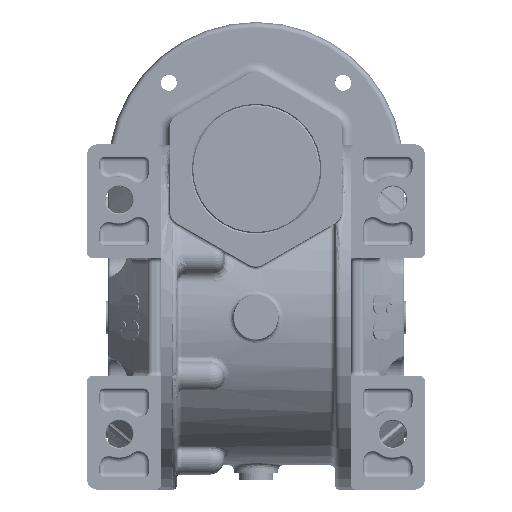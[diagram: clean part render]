
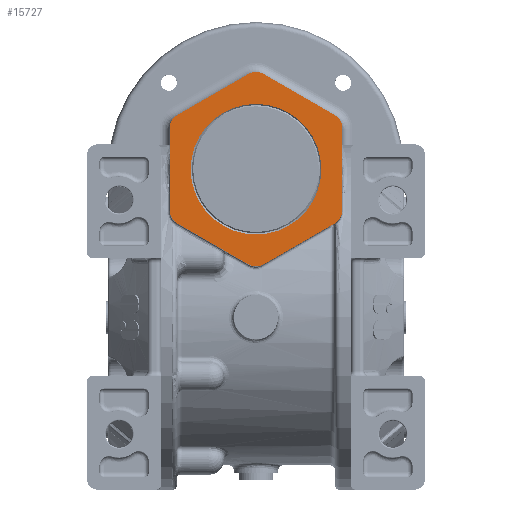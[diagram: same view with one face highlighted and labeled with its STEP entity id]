
A CAD part, top view. The second image highlights one B-rep face of the part: STEP entity #15727.
In plain terms, the highlighted planar face has unit normal (0, 0, 1).
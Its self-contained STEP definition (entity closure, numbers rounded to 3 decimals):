
#9452 = VERTEX_POINT ( 'NONE', #115192 ) ;
#9458 = EDGE_CURVE ( 'NONE', #9460, #9452, #115186, .T. ) ;
#9460 = VERTEX_POINT ( 'NONE', #115175 ) ;
#15530 = VERTEX_POINT ( 'NONE', #147919 ) ;
#15662 = EDGE_CURVE ( 'NONE', #15664, #15530, #148253, .T. ) ;
#15664 = VERTEX_POINT ( 'NONE', #148247 ) ;
#15727 = ADVANCED_FACE ( 'NONE', ( #148387, #148385 ), #148536, .T. ) ;
#15731 = EDGE_LOOP ( 'NONE', ( #15869, #15872 ) ) ;
#15812 = VERTEX_POINT ( 'NONE', #148554 ) ;
#15815 = ORIENTED_EDGE ( 'NONE', *, *, #15817, .T. ) ;
#15817 = EDGE_CURVE ( 'NONE', #15812, #15884, #148549, .T. ) ;
#15840 = ORIENTED_EDGE ( 'NONE', *, *, #15844, .T. ) ;
#15844 = EDGE_CURVE ( 'NONE', #15903, #15846, #148653, .T. ) ;
#15846 = VERTEX_POINT ( 'NONE', #148646 ) ;
#15848 = ORIENTED_EDGE ( 'NONE', *, *, #15850, .T. ) ;
#15850 = EDGE_CURVE ( 'NONE', #15846, #15664, #148640, .T. ) ;
#15852 = ORIENTED_EDGE ( 'NONE', *, *, #15662, .T. ) ;
#15855 = ORIENTED_EDGE ( 'NONE', *, *, #15857, .T. ) ;
#15857 = EDGE_CURVE ( 'NONE', #15530, #15860, #148633, .T. ) ;
#15860 = VERTEX_POINT ( 'NONE', #148625 ) ;
#15862 = ORIENTED_EDGE ( 'NONE', *, *, #15864, .T. ) ;
#15864 = EDGE_CURVE ( 'NONE', #15860, #15866, #148624, .T. ) ;
#15866 = VERTEX_POINT ( 'NONE', #148734 ) ;
#15867 = ORIENTED_EDGE ( 'NONE', *, *, #15868, .T. ) ;
#15868 = EDGE_CURVE ( 'NONE', #15866, #16038, #148733, .T. ) ;
#15869 = ORIENTED_EDGE ( 'NONE', *, *, #9458, .T. ) ;
#15872 = ORIENTED_EDGE ( 'NONE', *, *, #15873, .T. ) ;
#15873 = EDGE_CURVE ( 'NONE', #9452, #9460, #148728, .T. ) ;
#15878 = EDGE_LOOP ( 'NONE', ( #15880, #15888, #15896, #15840, #15848, #15852, #15855, #15862, #15867, #16041, #16048, #15815 ) ) ;
#15880 = ORIENTED_EDGE ( 'NONE', *, *, #15882, .T. ) ;
#15882 = EDGE_CURVE ( 'NONE', #15884, #15886, #148722, .T. ) ;
#15884 = VERTEX_POINT ( 'NONE', #148717 ) ;
#15886 = VERTEX_POINT ( 'NONE', #148716 ) ;
#15888 = ORIENTED_EDGE ( 'NONE', *, *, #15890, .T. ) ;
#15890 = EDGE_CURVE ( 'NONE', #15886, #15893, #148715, .T. ) ;
#15893 = VERTEX_POINT ( 'NONE', #148710 ) ;
#15896 = ORIENTED_EDGE ( 'NONE', *, *, #15899, .T. ) ;
#15899 = EDGE_CURVE ( 'NONE', #15893, #15903, #148705, .T. ) ;
#15903 = VERTEX_POINT ( 'NONE', #148696 ) ;
#16038 = VERTEX_POINT ( 'NONE', #148836 ) ;
#16041 = ORIENTED_EDGE ( 'NONE', *, *, #16044, .T. ) ;
#16044 = EDGE_CURVE ( 'NONE', #16038, #16047, #148831, .T. ) ;
#16047 = VERTEX_POINT ( 'NONE', #148823 ) ;
#16048 = ORIENTED_EDGE ( 'NONE', *, *, #16050, .T. ) ;
#16050 = EDGE_CURVE ( 'NONE', #16047, #15812, #148817, .T. ) ;
#115175 = CARTESIAN_POINT ( 'NONE',  ( 26.5, 0., 75. ) ) ;
#115176 = DIRECTION ( 'NONE',  ( 1., 0., 0. ) ) ;
#115179 = DIRECTION ( 'NONE',  ( 0., 0., -1. ) ) ;
#115180 = CARTESIAN_POINT ( 'NONE',  ( 0., 0., 75. ) ) ;
#115183 = AXIS2_PLACEMENT_3D ( 'NONE', #115180, #115179, #115176 ) ;
#115186 = CIRCLE ( 'NONE', #115183, 26.5 ) ;
#115192 = CARTESIAN_POINT ( 'NONE',  ( -26.5, 0., 75. ) ) ;
#147919 = CARTESIAN_POINT ( 'NONE',  ( 32., -21.939, 75. ) ) ;
#148247 = CARTESIAN_POINT ( 'NONE',  ( 3., -38.682, 75. ) ) ;
#148249 = DIRECTION ( 'NONE',  ( 0.866, 0.5, 0. ) ) ;
#148250 = VECTOR ( 'NONE', #148249, 1000. ) ;
#148251 = CARTESIAN_POINT ( 'NONE',  ( 3., -38.682, 75. ) ) ;
#148253 = LINE ( 'NONE', #148251, #148250 ) ;
#148385 = FACE_OUTER_BOUND ( 'NONE', #15878, .T. ) ;
#148387 = FACE_BOUND ( 'NONE', #15731, .T. ) ;
#148528 = DIRECTION ( 'NONE',  ( 1., 0., 0. ) ) ;
#148530 = DIRECTION ( 'NONE',  ( 0., 0., 1. ) ) ;
#148532 = CARTESIAN_POINT ( 'NONE',  ( -29., 16.743, 75. ) ) ;
#148534 = AXIS2_PLACEMENT_3D ( 'NONE', #148532, #148530, #148528 ) ;
#148536 = PLANE ( 'NONE',  #148534 ) ;
#148544 = DIRECTION ( 'NONE',  ( -0.866, -0.5, 0. ) ) ;
#148545 = VECTOR ( 'NONE', #148544, 1000. ) ;
#148547 = CARTESIAN_POINT ( 'NONE',  ( -3., 38.682, 75. ) ) ;
#148549 = LINE ( 'NONE', #148547, #148545 ) ;
#148554 = CARTESIAN_POINT ( 'NONE',  ( -3., 38.682, 75. ) ) ;
#148624 = LINE ( 'NONE', #148737, #148736 ) ;
#148625 = CARTESIAN_POINT ( 'NONE',  ( 35., -16.743, 75. ) ) ;
#148626 = DIRECTION ( 'NONE',  ( 1., 0., 0. ) ) ;
#148628 = DIRECTION ( 'NONE',  ( 0., 0., 1. ) ) ;
#148630 = CARTESIAN_POINT ( 'NONE',  ( 29., -16.743, 75. ) ) ;
#148631 = AXIS2_PLACEMENT_3D ( 'NONE', #148630, #148628, #148626 ) ;
#148633 = CIRCLE ( 'NONE', #148631, 6. ) ;
#148636 = DIRECTION ( 'NONE',  ( 1., 0., 0. ) ) ;
#148637 = DIRECTION ( 'NONE',  ( 0., 0., 1. ) ) ;
#148638 = CARTESIAN_POINT ( 'NONE',  ( 0., -33.486, 75. ) ) ;
#148639 = AXIS2_PLACEMENT_3D ( 'NONE', #148638, #148637, #148636 ) ;
#148640 = CIRCLE ( 'NONE', #148639, 6. ) ;
#148646 = CARTESIAN_POINT ( 'NONE',  ( -3., -38.682, 75. ) ) ;
#148648 = DIRECTION ( 'NONE',  ( 0.866, -0.5, 0. ) ) ;
#148650 = VECTOR ( 'NONE', #148648, 1000. ) ;
#148652 = CARTESIAN_POINT ( 'NONE',  ( -32., -21.939, 75. ) ) ;
#148653 = LINE ( 'NONE', #148652, #148650 ) ;
#148696 = CARTESIAN_POINT ( 'NONE',  ( -32., -21.939, 75. ) ) ;
#148698 = DIRECTION ( 'NONE',  ( 1., 0., 0. ) ) ;
#148700 = DIRECTION ( 'NONE',  ( 0., 0., 1. ) ) ;
#148702 = CARTESIAN_POINT ( 'NONE',  ( -29., -16.743, 75. ) ) ;
#148704 = AXIS2_PLACEMENT_3D ( 'NONE', #148702, #148700, #148698 ) ;
#148705 = CIRCLE ( 'NONE', #148704, 6. ) ;
#148710 = CARTESIAN_POINT ( 'NONE',  ( -35., -16.743, 75. ) ) ;
#148711 = DIRECTION ( 'NONE',  ( 0., -1., 0. ) ) ;
#148712 = VECTOR ( 'NONE', #148711, 1000. ) ;
#148714 = CARTESIAN_POINT ( 'NONE',  ( -35., 16.743, 75. ) ) ;
#148715 = LINE ( 'NONE', #148714, #148712 ) ;
#148716 = CARTESIAN_POINT ( 'NONE',  ( -35., 16.743, 75. ) ) ;
#148717 = CARTESIAN_POINT ( 'NONE',  ( -32., 21.939, 75. ) ) ;
#148718 = DIRECTION ( 'NONE',  ( 1., 0., 0. ) ) ;
#148719 = DIRECTION ( 'NONE',  ( 0., 0., 1. ) ) ;
#148720 = CARTESIAN_POINT ( 'NONE',  ( -29., 16.743, 75. ) ) ;
#148721 = AXIS2_PLACEMENT_3D ( 'NONE', #148720, #148719, #148718 ) ;
#148722 = CIRCLE ( 'NONE', #148721, 6. ) ;
#148724 = DIRECTION ( 'NONE',  ( 1., 0., 0. ) ) ;
#148725 = DIRECTION ( 'NONE',  ( 0., 0., -1. ) ) ;
#148726 = CARTESIAN_POINT ( 'NONE',  ( 0., 0., 75. ) ) ;
#148727 = AXIS2_PLACEMENT_3D ( 'NONE', #148726, #148725, #148724 ) ;
#148728 = CIRCLE ( 'NONE', #148727, 26.5 ) ;
#148729 = DIRECTION ( 'NONE',  ( 1., 0., 0. ) ) ;
#148730 = DIRECTION ( 'NONE',  ( 0., 0., 1. ) ) ;
#148731 = CARTESIAN_POINT ( 'NONE',  ( 29., 16.743, 75. ) ) ;
#148732 = AXIS2_PLACEMENT_3D ( 'NONE', #148731, #148730, #148729 ) ;
#148733 = CIRCLE ( 'NONE', #148732, 6. ) ;
#148734 = CARTESIAN_POINT ( 'NONE',  ( 35., 16.743, 75. ) ) ;
#148735 = DIRECTION ( 'NONE',  ( 0., 1., 0. ) ) ;
#148736 = VECTOR ( 'NONE', #148735, 1000. ) ;
#148737 = CARTESIAN_POINT ( 'NONE',  ( 35., -16.743, 75. ) ) ;
#148812 = DIRECTION ( 'NONE',  ( 0., 0., 1. ) ) ;
#148814 = CARTESIAN_POINT ( 'NONE',  ( 0., 33.486, 75. ) ) ;
#148816 = AXIS2_PLACEMENT_3D ( 'NONE', #148814, #148812, #148963 ) ;
#148817 = CIRCLE ( 'NONE', #148816, 6. ) ;
#148823 = CARTESIAN_POINT ( 'NONE',  ( 3., 38.682, 75. ) ) ;
#148826 = DIRECTION ( 'NONE',  ( -0.866, 0.5, 0. ) ) ;
#148827 = VECTOR ( 'NONE', #148826, 1000. ) ;
#148829 = CARTESIAN_POINT ( 'NONE',  ( 32., 21.939, 75. ) ) ;
#148831 = LINE ( 'NONE', #148829, #148827 ) ;
#148836 = CARTESIAN_POINT ( 'NONE',  ( 32., 21.939, 75. ) ) ;
#148963 = DIRECTION ( 'NONE',  ( -1., 0., 0. ) ) ;
